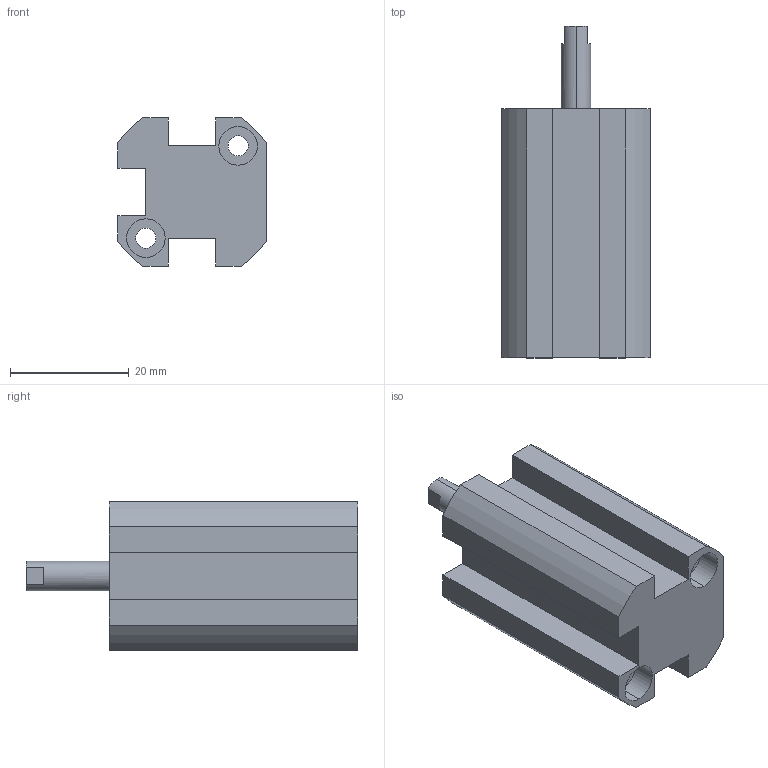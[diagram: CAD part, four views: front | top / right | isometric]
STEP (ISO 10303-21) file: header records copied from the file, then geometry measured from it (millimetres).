
FILE_DESCRIPTION (( 'STEP AP203' ), '1' );
FILE_NAME ('XG#0-10D-10.STEP', '2016-05-24T01:29:24', ( '' ), ( '' ), 'SwSTEP 2.0', 'SolidWorks 2014', '' );
FILE_SCHEMA (( 'CONFIG_CONTROL_DESIGN' ));
Length unit declared in the file: millimetre
Products named in the file (1): XG#0-10D-10
Bounding box: 25 x 56 x 25 mm (x, y, z)
Volume: 18957.6 mm3; surface area: 7527.6 mm2
Topology: 1 solids, 1 shells, 72 faces, 177 edges, 116 vertices
Faces by surface type: cylinder 37, plane 33, cone 2
Entity records: 2227 total; most frequent: DIRECTION 400, CARTESIAN_POINT 364, ORIENTED_EDGE 350, EDGE_CURVE 175, AXIS2_PLACEMENT_3D 152, VERTEX_POINT 116, LINE 96, VECTOR 96
